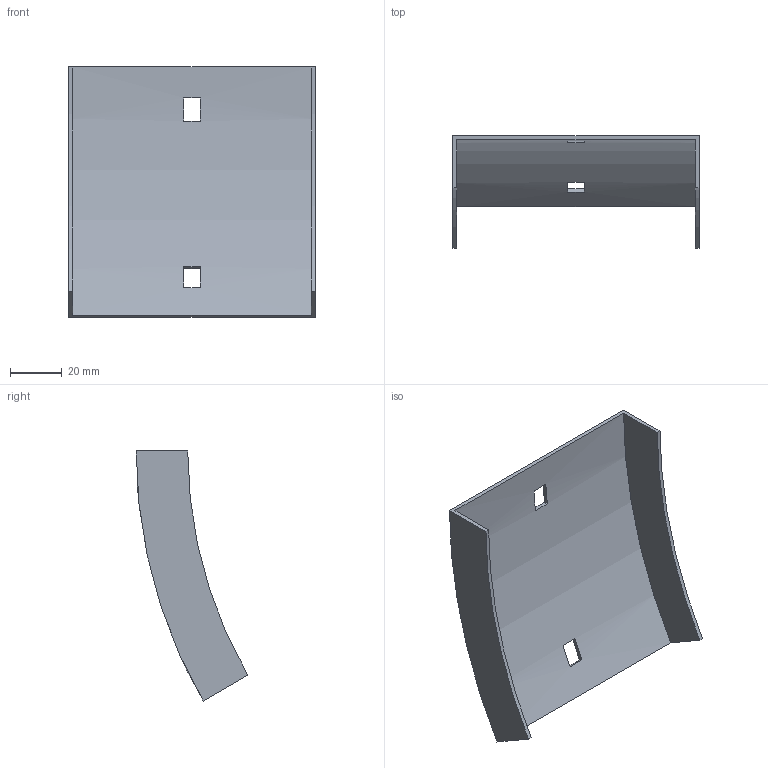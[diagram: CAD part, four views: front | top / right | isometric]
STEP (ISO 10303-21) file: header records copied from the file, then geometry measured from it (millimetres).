
FILE_DESCRIPTION (( 'STEP AP214' ), '1' );
FILE_NAME ('35N1I092.step', '2025-02-21T09:13:19', ( '' ), ( '' ), 'SwSTEP 2.0', 'SolidWorks 2023', '' );
FILE_SCHEMA (( 'AUTOMOTIVE_DESIGN' ));
Length unit declared in the file: millimetre
Products named in the file (1): 35N1I092
Bounding box: 95.5 x 43.31 x 97 mm (x, y, z)
Volume: 19643.9 mm3; surface area: 26957.2 mm2
Topology: 1 solids, 1 shells, 18 faces, 48 edges, 32 vertices
Faces by surface type: plane 14, cylinder 4
Entity records: 599 total; most frequent: DIRECTION 102, CARTESIAN_POINT 99, ORIENTED_EDGE 96, EDGE_CURVE 48, AXIS2_PLACEMENT_3D 35, VECTOR 32, LINE 32, VERTEX_POINT 32
